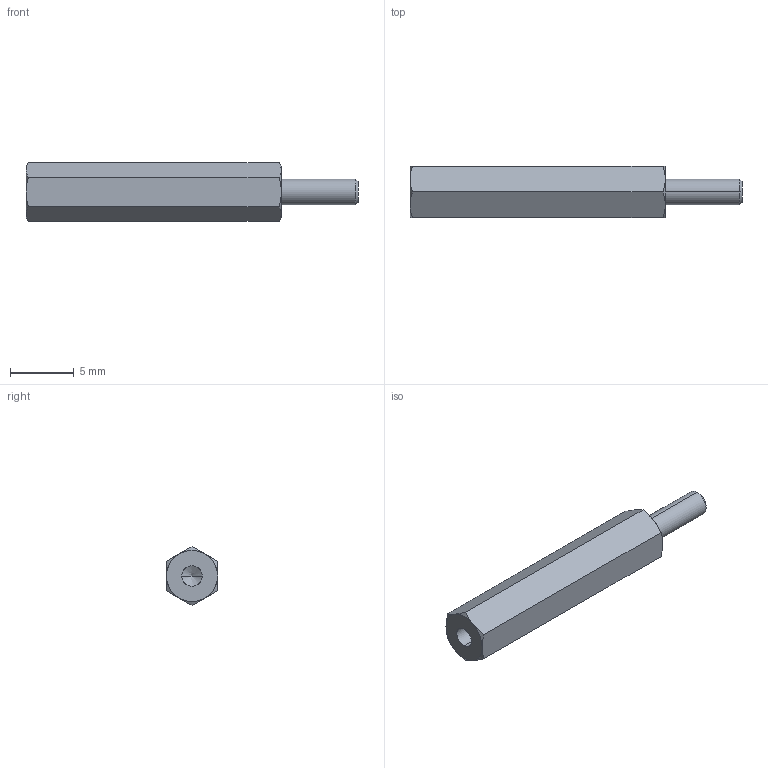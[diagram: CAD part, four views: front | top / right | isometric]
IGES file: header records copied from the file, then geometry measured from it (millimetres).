
Start section: SolidWorks IGES file using analytic representation for surfaces
Global section: file name: C:\Users\render1\Desktop\P0185_IGES\P0185.02-20.igs; native system: SolidWorks 2009; preprocessor: SolidWorks 2009; author: render1; date: 130627.111340; units: millimetre
Bounding box: 26 x 4 x 4.62 mm (x, y, z)
Surface area: 370.9 mm2 (no closed solid volume)
Topology: 0 solids, 0 shells, 29 faces, 292 edges, 290 vertices
Faces by surface type: revolution 20, bspline 9
